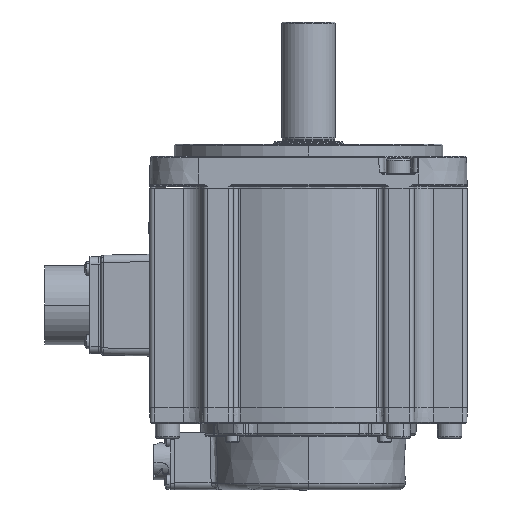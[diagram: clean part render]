
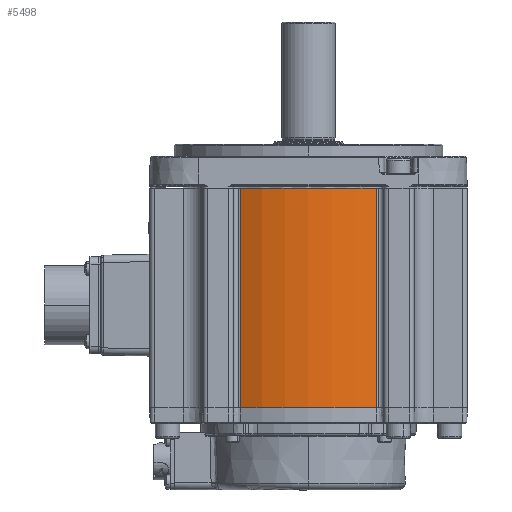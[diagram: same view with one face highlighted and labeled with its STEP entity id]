
A CAD part, left-side view. The second image highlights one B-rep face of the part: STEP entity #5498.
In plain terms, the highlighted cylindrical face has radius 64.5 mm (diameter 129 mm), a partial arc.
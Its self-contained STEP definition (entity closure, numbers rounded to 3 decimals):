
#129 = CARTESIAN_POINT ( 'NONE',  ( 0., 0., -45. ) ) ;
#2869 = AXIS2_PLACEMENT_3D ( 'NONE', #36395, #12569, #40380 ) ;
#4145 = DIRECTION ( 'NONE',  ( 0., 1., 0. ) ) ;
#4185 = VECTOR ( 'NONE', #25353, 1000. ) ;
#5498 = ADVANCED_FACE ( 'NONE', ( #28381 ), #7205, .T. ) ;
#6713 = LINE ( 'NONE', #41149, #4185 ) ;
#7133 = CARTESIAN_POINT ( 'NONE',  ( -58.154, 27.9, -45. ) ) ;
#7205 = CYLINDRICAL_SURFACE ( 'NONE', #49869, 64.5 ) ;
#7974 = CARTESIAN_POINT ( 'NONE',  ( -58.154, -27.9, -46. ) ) ;
#9155 = VERTEX_POINT ( 'NONE', #17016 ) ;
#10149 = DIRECTION ( 'NONE',  ( 0., 0., 1. ) ) ;
#11346 = EDGE_LOOP ( 'NONE', ( #28550, #30565, #47282, #12027 ) ) ;
#11805 = AXIS2_PLACEMENT_3D ( 'NONE', #129, #28016, #4145 ) ;
#12027 = ORIENTED_EDGE ( 'NONE', *, *, #46337, .T. ) ;
#12569 = DIRECTION ( 'NONE',  ( 0., 0., 1. ) ) ;
#12903 = CARTESIAN_POINT ( 'NONE',  ( -58.154, -27.9, -45. ) ) ;
#13969 = CARTESIAN_POINT ( 'NONE',  ( 0., 0., -46. ) ) ;
#17016 = CARTESIAN_POINT ( 'NONE',  ( -58.154, 27.9, 45. ) ) ;
#18541 = VECTOR ( 'NONE', #36133, 1000. ) ;
#20261 = VERTEX_POINT ( 'NONE', #21877 ) ;
#21877 = CARTESIAN_POINT ( 'NONE',  ( -58.154, -27.9, 45. ) ) ;
#25353 = DIRECTION ( 'NONE',  ( 0., 0., -1. ) ) ;
#26013 = VERTEX_POINT ( 'NONE', #12903 ) ;
#28016 = DIRECTION ( 'NONE',  ( 0., 0., -1. ) ) ;
#28381 = FACE_OUTER_BOUND ( 'NONE', #11346, .T. ) ;
#28541 = VERTEX_POINT ( 'NONE', #7133 ) ;
#28550 = ORIENTED_EDGE ( 'NONE', *, *, #48575, .F. ) ;
#30565 = ORIENTED_EDGE ( 'NONE', *, *, #32180, .T. ) ;
#32180 = EDGE_CURVE ( 'NONE', #26013, #20261, #42171, .T. ) ;
#33791 = DIRECTION ( 'NONE',  ( 1., 0., 0. ) ) ;
#35873 = CIRCLE ( 'NONE', #11805, 64.5 ) ;
#36133 = DIRECTION ( 'NONE',  ( 0., 0., 1. ) ) ;
#36395 = CARTESIAN_POINT ( 'NONE',  ( 0., 0., 45. ) ) ;
#40380 = DIRECTION ( 'NONE',  ( 0., -1., 0. ) ) ;
#41149 = CARTESIAN_POINT ( 'NONE',  ( -58.154, 27.9, -46. ) ) ;
#41749 = EDGE_CURVE ( 'NONE', #9155, #20261, #44390, .T. ) ;
#42171 = LINE ( 'NONE', #7974, #18541 ) ;
#44390 = CIRCLE ( 'NONE', #2869, 64.5 ) ;
#46337 = EDGE_CURVE ( 'NONE', #9155, #28541, #6713, .T. ) ;
#47282 = ORIENTED_EDGE ( 'NONE', *, *, #41749, .F. ) ;
#48575 = EDGE_CURVE ( 'NONE', #26013, #28541, #35873, .T. ) ;
#49869 = AXIS2_PLACEMENT_3D ( 'NONE', #13969, #10149, #33791 ) ;
